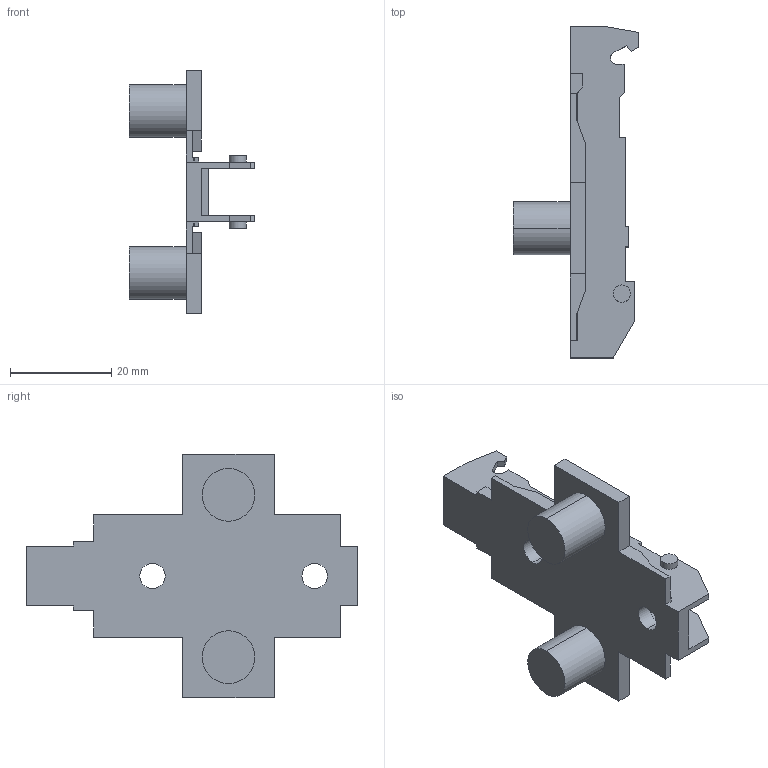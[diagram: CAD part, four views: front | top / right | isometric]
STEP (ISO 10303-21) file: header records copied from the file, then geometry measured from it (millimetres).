
FILE_DESCRIPTION (( 'STEP AP214' ), '1' );
FILE_NAME ('1D_Kreuzmontageplatte 37_32_10mm_Dübel_3.step', '2010-11-18T10:19:11', ( 'grass' ), ( '' ), 'SwSTEP 2.0', 'SolidWorks 2010', '' );
FILE_SCHEMA (( 'AUTOMOTIVE_DESIGN' ));
Length unit declared in the file: millimetre
Products named in the file (1): 1D_Kreuzmontageplatte 37_32_10mm_Dübel_3
Bounding box: 24.7 x 65.5 x 48 mm (x, y, z)
Volume: 8021.9 mm3; surface area: 7472.8 mm2
Topology: 1 solids, 1 shells, 114 faces, 314 edges, 208 vertices
Faces by surface type: plane 88, cylinder 22, cone 4
Entity records: 3636 total; most frequent: CARTESIAN_POINT 637, ORIENTED_EDGE 628, DIRECTION 592, EDGE_CURVE 314, LINE 266, VECTOR 266, VERTEX_POINT 208, AXIS2_PLACEMENT_3D 163
